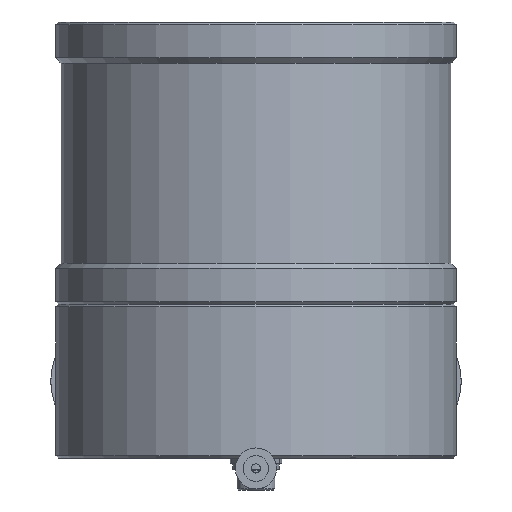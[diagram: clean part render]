
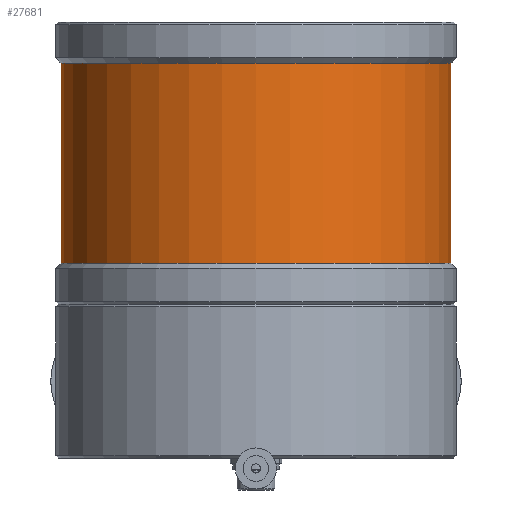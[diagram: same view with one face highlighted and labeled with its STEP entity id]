
A CAD part, front view. The second image highlights one B-rep face of the part: STEP entity #27681.
In plain terms, the highlighted cylindrical face has radius 38 mm (diameter 76 mm), a partial arc.
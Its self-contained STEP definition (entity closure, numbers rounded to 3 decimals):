
#22696 = DIRECTION ( 'NONE',  ( 1., 0., 0. ) ) ;
#22697 = DIRECTION ( 'NONE',  ( 0., 0., 1. ) ) ;
#22698 = CARTESIAN_POINT ( 'NONE',  ( 0., 0., -56. ) ) ;
#22699 = AXIS2_PLACEMENT_3D ( 'NONE', #22698, #22697, #22696 ) ;
#22700 = CIRCLE ( 'NONE', #22699, 38. ) ;
#22701 = CARTESIAN_POINT ( 'NONE',  ( -38., 0., -56. ) ) ;
#22702 = CARTESIAN_POINT ( 'NONE',  ( 38., 0., -56. ) ) ;
#22731 = CARTESIAN_POINT ( 'NONE',  ( -38., 0., -17. ) ) ;
#22732 = DIRECTION ( 'NONE',  ( -1., 0., 0. ) ) ;
#22733 = DIRECTION ( 'NONE',  ( 0., 0., -1. ) ) ;
#22734 = CARTESIAN_POINT ( 'NONE',  ( 0., 0., -17. ) ) ;
#22735 = AXIS2_PLACEMENT_3D ( 'NONE', #22734, #22733, #22732 ) ;
#22736 = CIRCLE ( 'NONE', #22735, 38. ) ;
#22738 = CARTESIAN_POINT ( 'NONE',  ( 38., 0., -17. ) ) ;
#22745 = AXIS2_PLACEMENT_3D ( 'NONE', #23038, #28191, #28186 ) ;
#23038 = CARTESIAN_POINT ( 'NONE',  ( 0., 0., 0. ) ) ;
#23041 = CYLINDRICAL_SURFACE ( 'NONE', #22745, 38. ) ;
#23046 = FACE_OUTER_BOUND ( 'NONE', #27663, .T. ) ;
#23089 = DIRECTION ( 'NONE',  ( 0., 0., 1. ) ) ;
#23090 = VECTOR ( 'NONE', #23089, 1000. ) ;
#23091 = CARTESIAN_POINT ( 'NONE',  ( -38., 0., 0. ) ) ;
#23093 = LINE ( 'NONE', #23091, #23090 ) ;
#23120 = DIRECTION ( 'NONE',  ( 0., 0., 1. ) ) ;
#23121 = VECTOR ( 'NONE', #23120, 1000. ) ;
#23122 = CARTESIAN_POINT ( 'NONE',  ( 38., 0., 0. ) ) ;
#23123 = LINE ( 'NONE', #23122, #23121 ) ;
#27500 = VERTEX_POINT ( 'NONE', #22702 ) ;
#27501 = VERTEX_POINT ( 'NONE', #22701 ) ;
#27502 = EDGE_CURVE ( 'NONE', #27501, #27500, #22700, .T. ) ;
#27517 = VERTEX_POINT ( 'NONE', #22738 ) ;
#27518 = EDGE_CURVE ( 'NONE', #27517, #27519, #22736, .T. ) ;
#27519 = VERTEX_POINT ( 'NONE', #22731 ) ;
#27656 = ORIENTED_EDGE ( 'NONE', *, *, #27502, .T. ) ;
#27663 = EDGE_LOOP ( 'NONE', ( #27656, #27700, #27698, #27710 ) ) ;
#27681 = ADVANCED_FACE ( 'NONE', ( #23046 ), #23041, .T. ) ;
#27690 = EDGE_CURVE ( 'NONE', #27501, #27519, #23093, .T. ) ;
#27698 = ORIENTED_EDGE ( 'NONE', *, *, #27518, .T. ) ;
#27700 = ORIENTED_EDGE ( 'NONE', *, *, #27707, .T. ) ;
#27707 = EDGE_CURVE ( 'NONE', #27500, #27517, #23123, .T. ) ;
#27710 = ORIENTED_EDGE ( 'NONE', *, *, #27690, .F. ) ;
#28186 = DIRECTION ( 'NONE',  ( -1., 0., 0. ) ) ;
#28191 = DIRECTION ( 'NONE',  ( 0., 0., 1. ) ) ;
